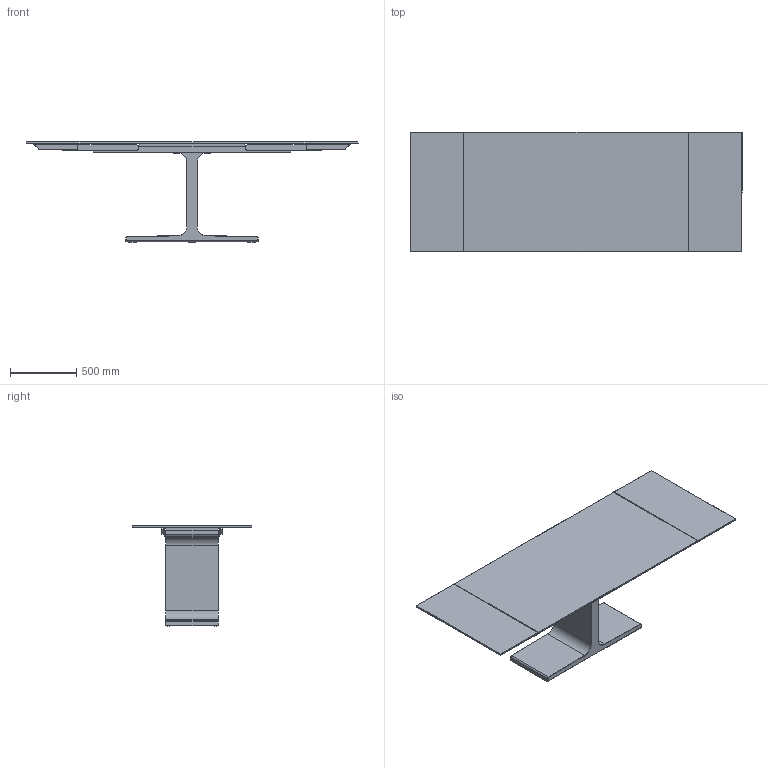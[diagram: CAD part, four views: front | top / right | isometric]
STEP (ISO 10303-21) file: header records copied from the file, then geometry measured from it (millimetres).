
FILE_DESCRIPTION((''),'2;1');
FILE_NAME('C:\AutodeskVault\AreaLavoro\Progetti\SoVeT Italia\1. Tavoli_Dining tables\Palace\Palace Extensible\Web file\Palace Extensible Web\P1572.stp','2012-04-27T17:16:31',('Gianluca'),('So.Ve.T. s.r.l.'),'Autodesk Inventor 2011','Autodesk Inventor 2011','IL PROGETTO E'' DI ESCLUSIVA PROPRIETA'' DELLA SO.VE.T. srl. E'' VIETATA OGNI RIPRODUZIONE TOTALE O PARZIALE EQUALSIASI UTILIZZO NON AUTORIZZATO.');
FILE_SCHEMA(('AUTOMOTIVE_DESIGN { 1 0 10303 214 1 1 1 1 }'));
Length unit declared in the file: millimetre
Products named in the file (1): P1572 Contorno semplificato
Bounding box: 2509.14 x 900 x 761.17 mm (x, y, z)
Volume: 97576039.6 mm3; surface area: 7611694.3 mm2
Topology: 7 solids, 7 shells, 305 faces, 728 edges, 448 vertices
Faces by surface type: plane 169, cylinder 96, cone 24, torus 16
Entity records: 9111 total; most frequent: DIRECTION 1556, CARTESIAN_POINT 1522, ORIENTED_EDGE 1456, EDGE_CURVE 728, AXIS2_PLACEMENT_3D 530, VECTOR 496, LINE 496, VERTEX_POINT 448
